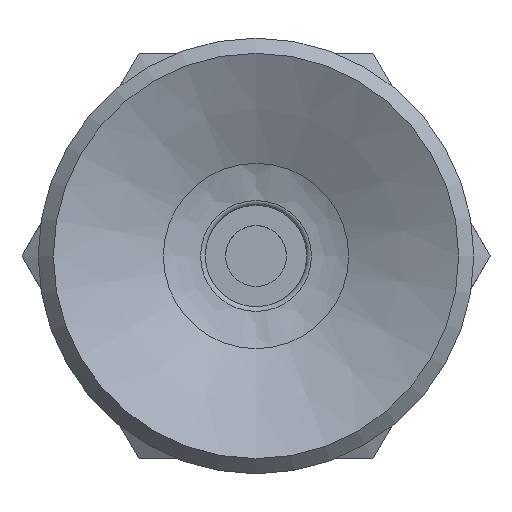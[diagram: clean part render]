
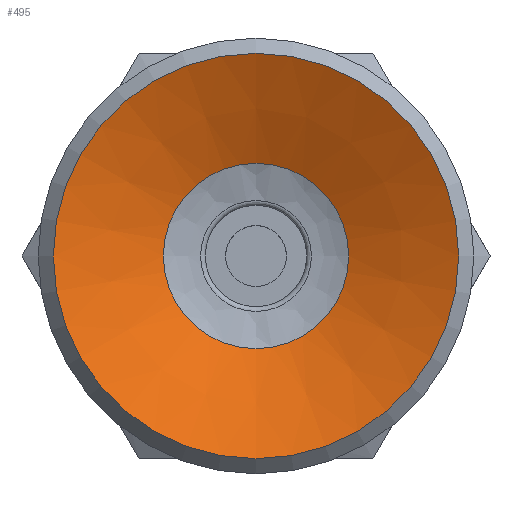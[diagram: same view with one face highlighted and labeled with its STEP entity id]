
A CAD part, front view. The second image highlights one B-rep face of the part: STEP entity #495.
In plain terms, the highlighted conical face has half-angle 65 degrees and reference radius 1.427 mm.
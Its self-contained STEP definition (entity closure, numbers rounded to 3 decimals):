
#495=ADVANCED_FACE('',(#744,#745),#746,.F.);
#744=FACE_BOUND('',#1014,.T.);
#745=FACE_OUTER_BOUND('',#1015,.T.);
#746=CONICAL_SURFACE('',#1016,1.427,1.134);
#1014=EDGE_LOOP('',(#1733));
#1015=EDGE_LOOP('',(#1734));
#1016=AXIS2_PLACEMENT_3D('',#1735,#1736,#1737);
#1733=ORIENTED_EDGE('',*,*,#1967,.T.);
#1734=ORIENTED_EDGE('',*,*,#1960,.T.);
#1735=CARTESIAN_POINT('',(0.0,7.096,0.));
#1736=DIRECTION('',(-0.0,-1.0,0.));
#1737=DIRECTION('',(0.0,0.,-1.0));
#1960=EDGE_CURVE('',#2267,#2267,#2268,.T.);
#1967=EDGE_CURVE('',#2281,#2281,#2282,.T.);
#2267=VERTEX_POINT('',#2963);
#2268=CIRCLE('',#2964,4.0);
#2281=VERTEX_POINT('',#2977);
#2282=CIRCLE('',#2978,1.828);
#2963=CARTESIAN_POINT('',(0.0,5.896,-4.0));
#2964=AXIS2_PLACEMENT_3D('',#3244,#3245,#3246);
#2977=CARTESIAN_POINT('',(0.0,6.909,-1.828));
#2978=AXIS2_PLACEMENT_3D('',#3265,#3266,#3267);
#3244=CARTESIAN_POINT('',(0.0,5.896,0.0));
#3245=DIRECTION('',(0.0,-1.0,0.));
#3246=DIRECTION('',(0.0,0.,-1.0));
#3265=CARTESIAN_POINT('',(0.0,6.909,0.0));
#3266=DIRECTION('',(0.0,1.0,0.));
#3267=DIRECTION('',(0.0,0.,-1.0));
